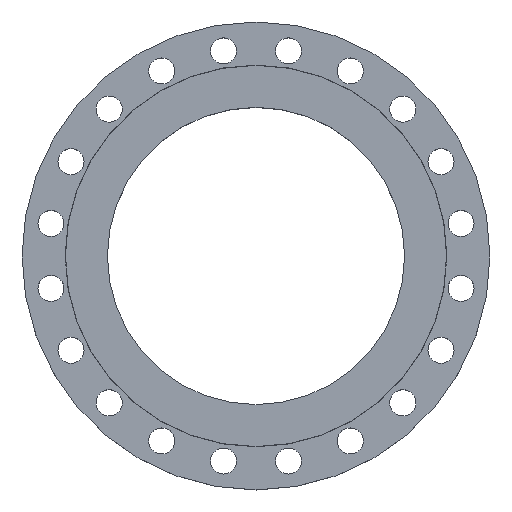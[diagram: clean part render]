
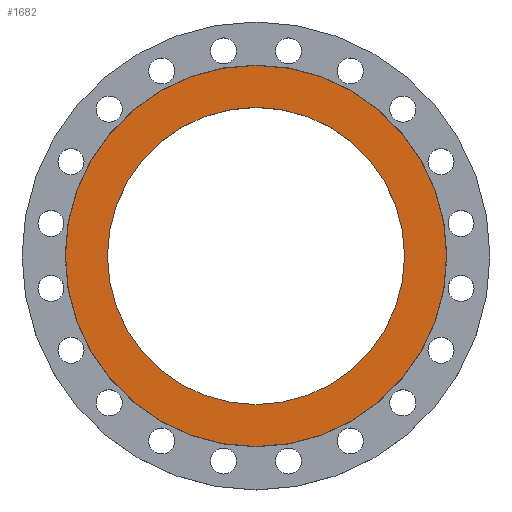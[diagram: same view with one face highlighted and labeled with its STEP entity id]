
A CAD part, top view. The second image highlights one B-rep face of the part: STEP entity #1682.
In plain terms, the highlighted planar face has unit normal (0, 0, 1).
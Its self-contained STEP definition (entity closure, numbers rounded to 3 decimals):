
#125 = DIRECTION ( 'NONE',  ( -1., 0., 0. ) ) ;
#127 = DIRECTION ( 'NONE',  ( 0., 0., -1. ) ) ;
#128 = CARTESIAN_POINT ( 'NONE',  ( 0., 0., 0. ) ) ;
#148 = CARTESIAN_POINT ( 'NONE',  ( -239.8, 0., 0. ) ) ;
#193 = CARTESIAN_POINT ( 'NONE',  ( 307.5, 0., 0. ) ) ;
#197 = CARTESIAN_POINT ( 'NONE',  ( 239.8, 0., 0. ) ) ;
#222 = DIRECTION ( 'NONE',  ( 1., 0., 0. ) ) ;
#223 = DIRECTION ( 'NONE',  ( 0., 0., 1. ) ) ;
#224 = CARTESIAN_POINT ( 'NONE',  ( 0., 0., 0. ) ) ;
#225 = PLANE ( 'NONE',  #360 ) ;
#227 = FACE_OUTER_BOUND ( 'NONE', #499, .T. ) ;
#228 = FACE_BOUND ( 'NONE', #1137, .T. ) ;
#360 = AXIS2_PLACEMENT_3D ( 'NONE', #224, #223, #222 ) ;
#499 = EDGE_LOOP ( 'NONE', ( #1507, #1505 ) ) ;
#546 = EDGE_CURVE ( 'NONE', #1728, #1822, #1702, .T. ) ;
#562 = AXIS2_PLACEMENT_3D ( 'NONE', #1992, #1993, #1989 ) ;
#728 = VERTEX_POINT ( 'NONE', #973 ) ;
#755 = CIRCLE ( 'NONE', #562, 239.8 ) ;
#812 = EDGE_CURVE ( 'NONE', #1732, #728, #1918, .T. ) ;
#897 = DIRECTION ( 'NONE',  ( -1., 0., 0. ) ) ;
#899 = DIRECTION ( 'NONE',  ( 0., 0., -1. ) ) ;
#900 = CARTESIAN_POINT ( 'NONE',  ( 0., 0., 0. ) ) ;
#973 = CARTESIAN_POINT ( 'NONE',  ( -307.5, 0., 0. ) ) ;
#1087 = AXIS2_PLACEMENT_3D ( 'NONE', #1104, #1101, #1099 ) ;
#1099 = DIRECTION ( 'NONE',  ( -1., 0., 0. ) ) ;
#1101 = DIRECTION ( 'NONE',  ( 0., 0., -1. ) ) ;
#1104 = CARTESIAN_POINT ( 'NONE',  ( 0., 0., 0. ) ) ;
#1137 = EDGE_LOOP ( 'NONE', ( #1511, #1508 ) ) ;
#1502 = AXIS2_PLACEMENT_3D ( 'NONE', #128, #127, #125 ) ;
#1505 = ORIENTED_EDGE ( 'NONE', *, *, #812, .F. ) ;
#1507 = ORIENTED_EDGE ( 'NONE', *, *, #1843, .F. ) ;
#1508 = ORIENTED_EDGE ( 'NONE', *, *, #546, .T. ) ;
#1511 = ORIENTED_EDGE ( 'NONE', *, *, #1958, .T. ) ;
#1682 = ADVANCED_FACE ( 'NONE', ( #228, #227 ), #225, .T. ) ;
#1702 = CIRCLE ( 'NONE', #1087, 239.8 ) ;
#1728 = VERTEX_POINT ( 'NONE', #197 ) ;
#1732 = VERTEX_POINT ( 'NONE', #193 ) ;
#1822 = VERTEX_POINT ( 'NONE', #148 ) ;
#1843 = EDGE_CURVE ( 'NONE', #728, #1732, #1988, .T. ) ;
#1918 = CIRCLE ( 'NONE', #1921, 307.5 ) ;
#1921 = AXIS2_PLACEMENT_3D ( 'NONE', #900, #899, #897 ) ;
#1958 = EDGE_CURVE ( 'NONE', #1822, #1728, #755, .T. ) ;
#1988 = CIRCLE ( 'NONE', #1502, 307.5 ) ;
#1989 = DIRECTION ( 'NONE',  ( -1., 0., 0. ) ) ;
#1992 = CARTESIAN_POINT ( 'NONE',  ( 0., 0., 0. ) ) ;
#1993 = DIRECTION ( 'NONE',  ( 0., 0., -1. ) ) ;
